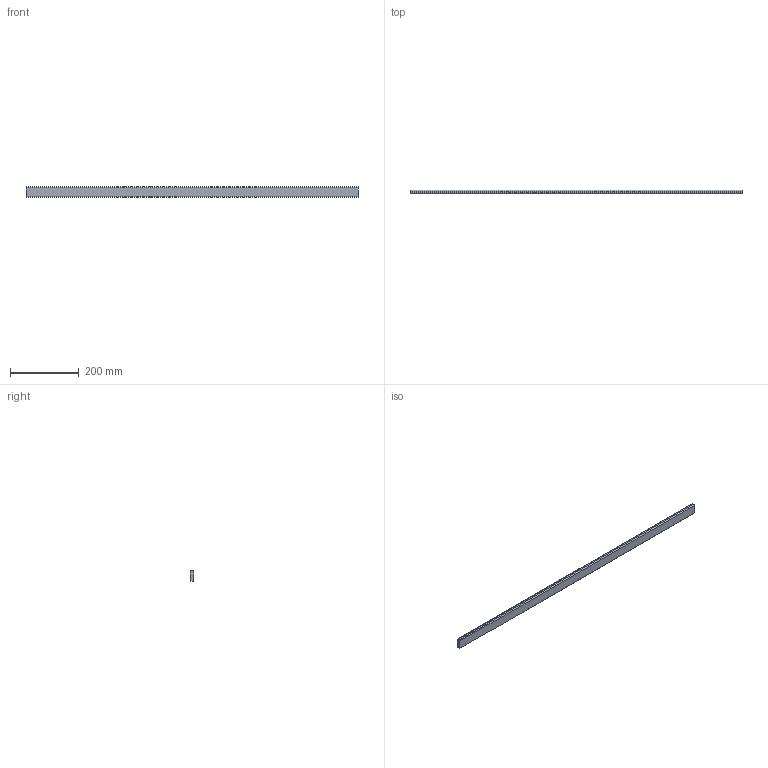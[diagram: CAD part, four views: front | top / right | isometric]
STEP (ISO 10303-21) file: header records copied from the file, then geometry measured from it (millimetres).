
FILE_DESCRIPTION (( 'STEP AP214' ), '1' );
FILE_NAME ('_Querreling_KAB-1050_KS-16.step', '2010-08-26T14:59:05', ( 'grass' ), ( '' ), 'SwSTEP 2.0', 'SolidWorks 2009', '' );
FILE_SCHEMA (( 'AUTOMOTIVE_DESIGN' ));
Length unit declared in the file: millimetre
Products named in the file (1): _Querreling_KAB-1050_KS-16
Bounding box: 962.5 x 10.5 x 30 mm (x, y, z)
Volume: 299056.4 mm3; surface area: 75279 mm2
Topology: 1 solids, 1 shells, 10 faces, 24 edges, 16 vertices
Faces by surface type: plane 6, cylinder 4
Entity records: 330 total; most frequent: DIRECTION 54, CARTESIAN_POINT 51, ORIENTED_EDGE 48, EDGE_CURVE 24, AXIS2_PLACEMENT_3D 19, VECTOR 16, LINE 16, VERTEX_POINT 16
